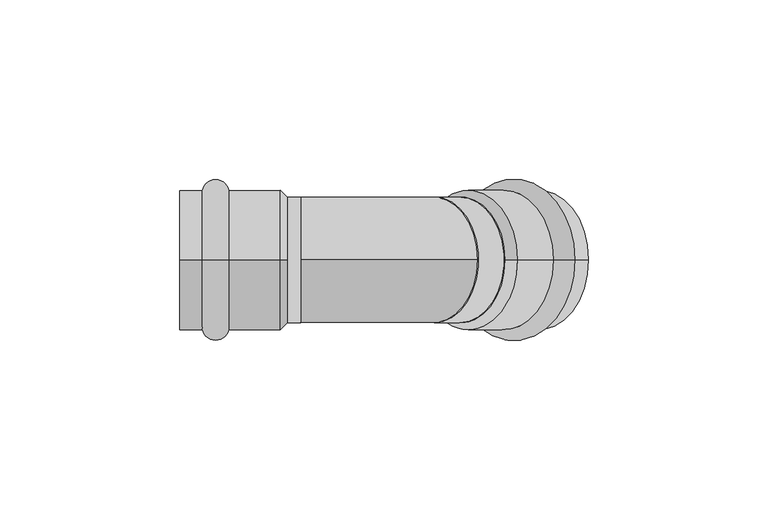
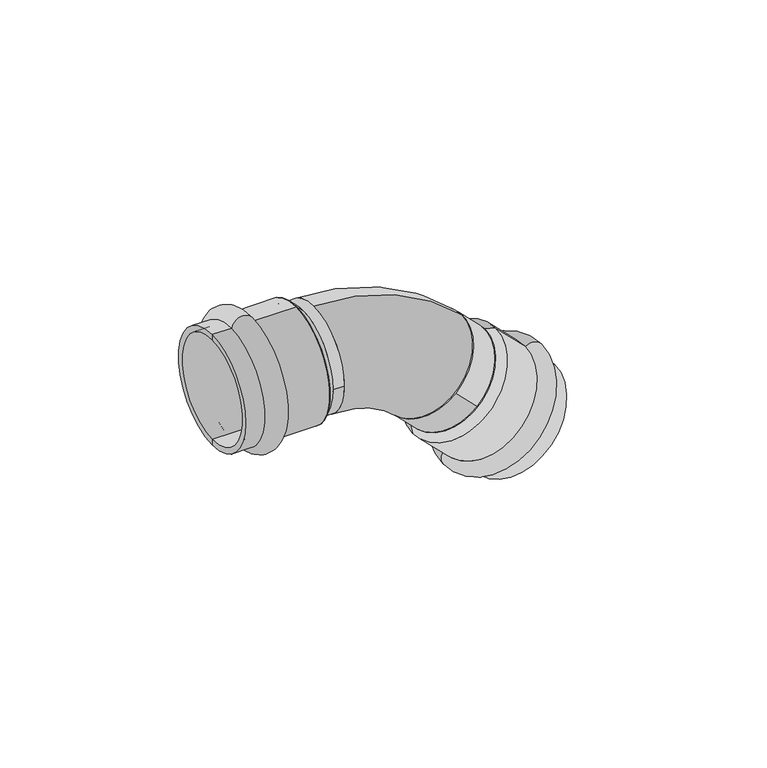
"""IFC4 building model written with IfcOpenShell, lengths in millimetres: pipe fitting geometry, VALTEC_VTi.959.I_Угольник 45° (раструб–раструб) нержавеющая сталь : Тип 1."""

import ifcopenshell
import ifcopenshell.guid

model = None  # the IFC model being written
_history = None  # IfcOwnerHistory: only IFC2X3 demands one
_inside = {}  # id of a spatial element -> (the spatial element, [elements in it])
_under = {}  # id of a project, library or spatial element -> (it, [spatial elements below it])
_declared = {}  # id of a project -> (the project, [libraries it declares])
_typed = {}  # id of a type object -> (the type object, [elements of that type])
_made_of = {}  # id of a material, layer set ... -> (it, [elements and type objects made of it])


def new_model(schema):
    """Start an empty IFC model of exactly this schema.

    Asked for "IFC4X3", IfcOpenShell would pick the latest addendum, in which some entities
    have other attributes; the version numbers below select the first issue.
    IFC2X3 requires an IfcOwnerHistory on every rooted entity: one is made here for all.
    """
    global model, _history
    if schema == "IFC4X3":
        model = ifcopenshell.file(schema_version=(4, 3, 0, 0))
    else:
        model = ifcopenshell.file(schema=schema)
    _inside.clear()
    _under.clear()
    _declared.clear()
    _typed.clear()
    _made_of.clear()
    _history = None
    if model.schema == "IFC2X3":
        org = make("IfcOrganization", Name="unknown")
        user = make(
            "IfcPersonAndOrganization",
            ThePerson=make("IfcPerson", FamilyName="unknown"),
            TheOrganization=org,
        )
        app = make(
            "IfcApplication",
            ApplicationDeveloper=org,
            Version="unknown",
            ApplicationFullName="unknown",
            ApplicationIdentifier="unknown",
        )
        _history = make(
            "IfcOwnerHistory",
            OwningUser=user,
            OwningApplication=app,
            ChangeAction="ADDED",
            CreationDate=0,
        )
    return model


def make(cls, **values):
    """One entity of the class cls with the attributes given. An attribute that is None is left unset."""
    return model.create_entity(
        cls, **{name: value for name, value in values.items() if value is not None}
    )


def rooted(cls, **values):
    """An entity with a GlobalId (a new one), such as an element, a storey or a relation."""
    return make(cls, GlobalId=ifcopenshell.guid.new(), OwnerHistory=_history, **values)


def si_unit(unit_type, name, prefix=None):
    """IfcSIUnit, for example si_unit("LENGTHUNIT", "METRE", prefix="MILLI")."""
    return make("IfcSIUnit", UnitType=unit_type, Prefix=prefix, Name=name)


def assignment(units):
    """IfcUnitAssignment: the units of a project."""
    return None if units is None else make("IfcUnitAssignment", Units=units)


def point(xyz):
    """IfcCartesianPoint."""
    return None if xyz is None else make("IfcCartesianPoint", Coordinates=xyz)


def direction(xyz):
    """IfcDirection."""
    return None if xyz is None else make("IfcDirection", DirectionRatios=xyz)


def frame(location, z_axis=None, x_axis=None):
    """IfcAxis2Placement3D, a coordinate frame: its origin and axes. An axis left out is left unset."""
    return make(
        "IfcAxis2Placement3D",
        Location=point(location),
        Axis=direction(z_axis),
        RefDirection=direction(x_axis),
    )


def frame_2d(location, x_axis=None):
    """IfcAxis2Placement2D, a coordinate frame in the plane: its origin and x axis."""
    return make(
        "IfcAxis2Placement2D", Location=point(location), RefDirection=direction(x_axis)
    )


def origin():
    """The frame at (0, 0, 0) with its axes left unset."""
    return frame((0.0, 0.0, 0.0))


def origin_2d():
    """The frame at (0, 0) in the plane with its x axis left unset."""
    return frame_2d((0.0, 0.0))


def place(relative_to, where):
    """IfcLocalPlacement: puts the frame where relative to a parent placement (None: the world)."""
    return make(
        "IfcLocalPlacement", PlacementRelTo=relative_to, RelativePlacement=where
    )


def context(
    kind, dimensions, precision=None, world=None, true_north=None, identifier=None
):
    """IfcGeometricRepresentationContext, for example the 3D "Model" context."""
    return make(
        "IfcGeometricRepresentationContext",
        ContextIdentifier=identifier,
        ContextType=kind,
        CoordinateSpaceDimension=dimensions,
        Precision=precision,
        WorldCoordinateSystem=world,
        TrueNorth=true_north,
    )


def project(units=None, contexts=None):
    """IfcProject with its units and contexts."""
    return rooted(
        "IfcProject",
        Name="project",
        RepresentationContexts=contexts,
        UnitsInContext=assignment(units),
    )


def spatial(cls, under=None, at=None, **own):
    """A site, building, storey or space (cls), placed at a placement, below another one or the project."""
    s = rooted(cls, ObjectPlacement=at, **own)
    if under is not None:
        _under.setdefault(under.id(), (under, []))[1].append(s)
    return s


def polyline(points):
    """IfcPolyline through the points."""
    return make("IfcPolyline", Points=[point(p) for p in points])


def circle_curve(where, radius):
    """IfcCircle in the frame where."""
    return make("IfcCircle", Position=where, Radius=radius)


def ellipse_curve(where, semi_axis1, semi_axis2):
    """IfcEllipse in the frame where."""
    return make(
        "IfcEllipse", Position=where, SemiAxis1=semi_axis1, SemiAxis2=semi_axis2
    )


def trimmed(basis, trim1, trim2, sense, master):
    """IfcTrimmedCurve: the piece of a basis curve between two trims."""
    return make(
        "IfcTrimmedCurve",
        BasisCurve=basis,
        Trim1=trim1,
        Trim2=trim2,
        SenseAgreement=sense,
        MasterRepresentation=master,
    )


def segment(curve, same_sense, transition):
    """IfcCompositeCurveSegment."""
    return make(
        "IfcCompositeCurveSegment",
        Transition=transition,
        SameSense=same_sense,
        ParentCurve=curve,
    )


def composite_curve(segments, self_intersect=None):
    """IfcCompositeCurve: segments joined end to end."""
    return make("IfcCompositeCurve", Segments=segments, SelfIntersect=self_intersect)


def outline(outer, holes=None, kind="AREA"):
    """IfcArbitraryClosedProfileDef: a profile drawn as a closed curve; with holes, ...WithVoids."""
    if holes is None:
        return make("IfcArbitraryClosedProfileDef", ProfileType=kind, OuterCurve=outer)
    return make(
        "IfcArbitraryProfileDefWithVoids",
        ProfileType=kind,
        OuterCurve=outer,
        InnerCurves=holes,
    )


def extrude(swept, where, along, depth):
    """IfcExtrudedAreaSolid: the profile swept, set in the frame where, extruded along a direction by depth."""
    return make(
        "IfcExtrudedAreaSolid",
        SweptArea=swept,
        Position=where,
        ExtrudedDirection=direction(along),
        Depth=depth,
    )


def shape(context_of_items, identifier, shape_type, items):
    """IfcShapeRepresentation: the items that make up one representation, for example the "Body"."""
    return make(
        "IfcShapeRepresentation",
        ContextOfItems=context_of_items,
        RepresentationIdentifier=identifier,
        RepresentationType=shape_type,
        Items=items,
    )


def source(mapping_origin, context_of_items, identifier, shape_type, items):
    """IfcRepresentationMap: a shape defined once, which mapped items show again and again."""
    return make(
        "IfcRepresentationMap",
        MappingOrigin=mapping_origin,
        MappedRepresentation=shape(context_of_items, identifier, shape_type, items),
    )


def transform(
    local_origin,
    x_axis=None,
    y_axis=None,
    z_axis=None,
    scale=None,
    scale2=None,
    scale3=None,
    uniform=True,
):
    """IfcCartesianTransformationOperator3D, or its non-uniform kind. x_axis, y_axis, z_axis: its Axis1, 2, 3."""
    if uniform:
        return make(
            "IfcCartesianTransformationOperator3D",
            Axis1=direction(x_axis),
            Axis2=direction(y_axis),
            LocalOrigin=point(local_origin),
            Scale=scale,
            Axis3=direction(z_axis),
        )
    return make(
        "IfcCartesianTransformationOperator3DnonUniform",
        Axis1=direction(x_axis),
        Axis2=direction(y_axis),
        LocalOrigin=point(local_origin),
        Scale=scale,
        Axis3=direction(z_axis),
        Scale2=scale2,
        Scale3=scale3,
    )


def mapped(mapping_source, mapping_target):
    """IfcMappedItem: shows the shape of a source again, moved by a transform."""
    return make(
        "IfcMappedItem", MappingSource=mapping_source, MappingTarget=mapping_target
    )


def made_of(thing, what):
    """Note that an element or type object is made of a material, layer set ...; save() writes the relation."""
    if what is not None:
        _made_of.setdefault(what.id(), (what, []))[1].append(thing)
    return thing


def element(
    cls,
    number,
    at=None,
    inside=None,
    cuts=None,
    type_object=None,
    material=None,
    context=None,
    identifier="Body",
    shape_type=None,
    held_by="IfcProductDefinitionShape",
    body=None,
    shapes=None,
    **own,
):
    """One element of the class cls, such as IfcWall. Its Tag is "e" and its number.

    at: its placement. inside: the storey or other place that contains it. cuts: it is an
    opening in that element (IfcRelVoidsElement). A single representation is given by context,
    identifier, shape_type and body (its items); several are given by shapes. held_by: the class
    of the entity that holds the representations. save() writes the other relations.
    """
    e = rooted(cls, Tag="e%d" % number, ObjectPlacement=at, **own)
    if body is not None:
        shapes = [shape(context, identifier, shape_type, body)]
    if shapes is not None:
        e.Representation = make(held_by, Representations=shapes)
    if inside is not None:
        _inside.setdefault(inside.id(), (inside, []))[1].append(e)
    if cuts is not None:
        rooted(
            "IfcRelVoidsElement", RelatingBuildingElement=cuts, RelatedOpeningElement=e
        )
    if type_object is not None:
        _typed.setdefault(type_object.id(), (type_object, []))[1].append(e)
    return made_of(e, material)


def aggregate(whole, parts):
    """IfcRelAggregates: a whole, such as a stair, and the parts it consists of."""
    return rooted("IfcRelAggregates", RelatingObject=whole, RelatedObjects=parts)


def save(model, path):
    """Write the relations noted so far, then the file.

    IfcRelAggregates (storeys below a building ...), IfcRelContainedInSpatialStructure (elements
    in a storey), IfcRelDefinesByType, IfcRelAssociatesMaterial and IfcRelDeclares: one each for
    every whole, place, type object, material and project.
    """
    for whole, parts in _under.values():
        aggregate(whole, parts)
    for where, things in _inside.values():
        rooted(
            "IfcRelContainedInSpatialStructure",
            RelatedElements=things,
            RelatingStructure=where,
        )
    for kind, things in _typed.values():
        rooted("IfcRelDefinesByType", RelatedObjects=things, RelatingType=kind)
    for what, things in _made_of.values():
        rooted("IfcRelAssociatesMaterial", RelatedObjects=things, RelatingMaterial=what)
    for by, libraries in _declared.values():
        rooted("IfcRelDeclares", RelatingContext=by, RelatedDefinitions=libraries)
    model.write(path)


def plane_surface(at):
    """IfcPlane: the flat surface through the origin of the frame at, square to its z axis."""
    return make("IfcPlane", Position=at)


def cylinder_surface(at, radius):
    """IfcCylindricalSurface: all points at the distance radius from the z axis of the frame at."""
    return make("IfcCylindricalSurface", Position=at, Radius=radius)


def revolved_surface(curve, axis_point, axis_direction):
    """IfcSurfaceOfRevolution: the curve turned about the line through axis_point along axis_direction."""
    return make(
        "IfcSurfaceOfRevolution",
        SweptCurve=make("IfcArbitraryOpenProfileDef", ProfileType="CURVE", Curve=curve),
        AxisPosition=make("IfcAxis1Placement", Location=point(axis_point), Axis=direction(axis_direction)),
    )


def advanced_brep(points, edges, surfaces, faces):
    """IfcAdvancedBrep: a solid bounded by faces that lie on surfaces and meet in shared edges.

    An edge is (start, end): straight between two places in points (the first is 0);
    or (start, end, curve); or (start, end, curve, False) where it runs against its curve.
    A face is (place in surfaces, loops), or (place, loops, False) where it looks against
    its surface's normal. A loop lists edges by number (the first is 1), with a minus sign
    where the edge is run from its end to its start. The first loop is the outer one.
    """
    corners = [point(p) for p in points]
    vertices = [make("IfcVertexPoint", VertexGeometry=c) for c in corners]
    made = []
    for start, end, *more in edges:
        made.append(
            make(
                "IfcEdgeCurve",
                EdgeStart=vertices[start],
                EdgeEnd=vertices[end],
                EdgeGeometry=more[0] if more else make("IfcPolyline", Points=[corners[start], corners[end]]),
                SameSense=more[1] if len(more) > 1 else True,
            )
        )
    hull = []
    for where, loops, *sense in faces:
        bounds = []
        for j, loop in enumerate(loops):
            ring = [make("IfcOrientedEdge", EdgeElement=made[abs(k) - 1], Orientation=k > 0) for k in loop]
            bounds.append(
                make(
                    "IfcFaceOuterBound" if j == 0 else "IfcFaceBound",
                    Bound=make("IfcEdgeLoop", EdgeList=ring),
                    Orientation=True,
                )
            )
        hull.append(make("IfcAdvancedFace", Bounds=bounds, FaceSurface=surfaces[where], SameSense=sense[0] if sense else True))
    return make("IfcAdvancedBrep", Outer=make("IfcClosedShell", CfsFaces=hull))


def pipe_fitting_901698c2(model_context):
    return source(origin(), model_context, "Body", "SolidModel", [
        advanced_brep(
        [(-5.75, 0.0, 19.4), (-5.75, 0.0, -19.4), (-3.75, 0.0, 17.5), (-3.75, 0.0, -17.5)],
        [
            (0, 1, circle_curve(frame((-5.75, 0.0, 0.0), z_axis=(-1.0, 0.0, 0.0), x_axis=(0.0, 0.0, 1.0)), 19.4)),
            (1, 0, circle_curve(frame((-5.75, 0.0, 0.0), z_axis=(-1.0, 0.0, 0.0), x_axis=(0.0, 0.0, -1.0)), 19.4)),
            (2, 3, circle_curve(frame((-3.75, 0.0, 0.0), z_axis=(1.0, 0.0, 0.0), x_axis=(0.0, 0.0, -1.0)), 17.5)),
            (3, 2, circle_curve(frame((-3.75, 0.0, 0.0), z_axis=(1.0, 0.0, 0.0), x_axis=(0.0, 0.0, 1.0)), 17.5)),
            (3, 1),
            (0, 2),
        ],
        [
            plane_surface(frame((-5.75, 0.0, 0.0), z_axis=(-1.0, 0.0, 0.0), x_axis=(0.0, 1.0, 0.0))),
            plane_surface(frame((-3.75, 0.0, 0.0), z_axis=(1.0, 0.0, 0.0), x_axis=(0.0, 1.0, 0.0))),
            revolved_surface(polyline([(-3.75, 0.0, -17.499999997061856), (-5.75, 0.0, -19.4)]), (14.6710526, 0.0, 0.0), (-1.0, 0.0, 0.0)),
            revolved_surface(polyline([(-3.75, 0.0, 17.499999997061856), (-5.75, 0.0, 19.4)]), (14.6710526, 0.0, 0.0), (-1.0, 0.0, 0.0)),
        ],
        [
            (0, [[1, 2]]),
            (1, [[3, 4]]),
            (2, [[-4, 5, -1, 6]]),
            (3, [[-3, -6, -2, -5]]),
        ],
    ),
        advanced_brep(
        [(32.9076515, 0.0, -38.5971825), (60.3433946, 0.0, -11.1614394), (32.129834, 0.0, -35.1323593), (56.8785713, 0.0, -10.383622)],
        [
            (0, 1, circle_curve(frame((46.625523, 0.0, -24.879311), z_axis=(0.7071067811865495, 0.0, -0.7071067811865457), x_axis=(-0.7071067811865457, 0.0, -0.7071067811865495)), 19.4)),
            (1, 0, circle_curve(frame((46.625523, 0.0, -24.879311), z_axis=(0.7071067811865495, 0.0, -0.7071067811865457), x_axis=(0.7071067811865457, 0.0, 0.7071067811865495)), 19.4)),
            (2, 3, circle_curve(frame((44.5042027, 0.0, -22.7579906), z_axis=(-0.7071067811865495, 0.0, 0.7071067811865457), x_axis=(0.7071067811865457, 0.0, 0.7071067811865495)), 17.5)),
            (3, 2, circle_curve(frame((44.5042027, 0.0, -22.7579906), z_axis=(-0.7071067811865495, 0.0, 0.7071067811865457), x_axis=(-0.7071067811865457, 0.0, -0.7071067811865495)), 17.5)),
            (3, 1),
            (0, 2),
        ],
        [
            plane_surface(frame((46.625523, 0.0, -24.879311), z_axis=(0.7071067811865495, 0.0, -0.7071067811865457), x_axis=(0.0, 1.0, 0.0))),
            plane_surface(frame((44.5042027, 0.0, -22.7579906), z_axis=(-0.7071067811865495, 0.0, 0.7071067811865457), x_axis=(0.0, 1.0, 0.0))),
            revolved_surface(polyline([(56.87857135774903, 0.0, -10.383621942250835), (60.3433946, 0.0, -11.1614394)]), (24.9657258, 0.0, -3.2195138), (0.7071067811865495, 0.0, -0.7071067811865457)),
            revolved_surface(polyline([(32.12983403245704, 0.0, -35.13235926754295), (32.90765150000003, 0.0, -38.59718250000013)]), (24.9657258, 0.0, -3.2195138), (0.7071067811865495, 0.0, -0.7071067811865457)),
        ],
        [
            (0, [[1, 2]]),
            (1, [[3, 4]]),
            (2, [[-4, 5, -1, 6]]),
            (3, [[-3, -6, -2, -5]]),
        ],
    ),
        advanced_brep(
        [(-27.3932371, 0.0, -19.4), (-27.3932371, 0.0, 19.4), (-20.0067629, 0.0, 19.4), (-20.0067629, 0.0, -19.4), (-33.75, 0.0, -19.4), (-33.75, 0.0, 19.4), (-33.75, 0.0, -17.5), (-33.75, 0.0, 17.5), (-5.75, 0.0, -17.5), (-5.75, 0.0, 17.5), (-5.75, 0.0, -19.4), (-5.75, 0.0, 19.4)],
        [
            (0, 1, circle_curve(frame((-27.3932371, 0.0, 0.0), z_axis=(1.0, 0.0, 0.0), x_axis=(0.0, 0.0, 1.0)), 19.4)),
            (1, 2, circle_curve(frame((-23.7, 0.0, 18.75), z_axis=(0.0, 1.0, 0.0), x_axis=(1.0, 0.0, 0.0)), 3.75)),
            (2, 3, circle_curve(frame((-20.0067629, 0.0, 0.0), z_axis=(-1.0, 0.0, 0.0), x_axis=(0.0, 0.0, 1.0)), 19.4)),
            (3, 0, circle_curve(frame((-23.7, 0.0, -18.75), z_axis=(0.0, 1.0, 0.0), x_axis=(1.0, 0.0, 0.0)), 3.75)),
            (1, 0, circle_curve(frame((-27.3932371, 0.0, 0.0), z_axis=(1.0, 0.0, 0.0), x_axis=(0.0, 0.0, 1.0)), 19.4)),
            (3, 2, circle_curve(frame((-20.0067629, 0.0, 0.0), z_axis=(-1.0, 0.0, 0.0), x_axis=(0.0, 0.0, 1.0)), 19.4)),
            (4, 5, circle_curve(frame((-33.75, 0.0, 0.0), z_axis=(1.0, 0.0, 0.0), x_axis=(0.0, 0.0, 1.0)), 19.4)),
            (5, 1),
            (0, 4),
            (5, 4, circle_curve(frame((-33.75, 0.0, 0.0), z_axis=(1.0, 0.0, 0.0), x_axis=(0.0, 0.0, 1.0)), 19.4)),
            (6, 7, circle_curve(frame((-33.75, 0.0, 0.0), z_axis=(1.0, 0.0, 0.0), x_axis=(0.0, 0.0, 1.0)), 17.5)),
            (7, 5),
            (4, 6),
            (7, 6, circle_curve(frame((-33.75, 0.0, 0.0), z_axis=(1.0, 0.0, 0.0), x_axis=(0.0, 0.0, 1.0)), 17.5)),
            (8, 9, circle_curve(frame((-5.75, 0.0, 0.0), z_axis=(1.0, 0.0, 0.0), x_axis=(0.0, 0.0, 1.0)), 17.5)),
            (9, 7),
            (6, 8),
            (9, 8, circle_curve(frame((-5.75, 0.0, 0.0), z_axis=(1.0, 0.0, 0.0), x_axis=(0.0, 0.0, 1.0)), 17.5)),
            (10, 11, circle_curve(frame((-5.75, 0.0, 0.0), z_axis=(1.0, 0.0, 0.0), x_axis=(0.0, 0.0, 1.0)), 19.4)),
            (11, 9),
            (8, 10),
            (11, 10, circle_curve(frame((-5.75, 0.0, 0.0), z_axis=(1.0, 0.0, 0.0), x_axis=(0.0, 0.0, 1.0)), 19.4)),
            (2, 11),
            (10, 3),
        ],
        [
            revolved_surface(trimmed(ellipse_curve(frame((-23.7, 0.0, 18.75), z_axis=(0.0, -1.0, 0.0), x_axis=(1.0, 0.0, 0.0)), 3.75, 3.75), [point((-20.0067629, 0.0, 19.4))], [point((-27.3932371, 0.0, 19.4))], True, "CARTESIAN"), (-37.2864426, 0.0, 0.0), (-1.0, 0.0, 0.0)),
            cylinder_surface(frame((-37.2864426, 0.0, 0.0), z_axis=(-1.0, 0.0, 0.0), x_axis=(0.0, 0.0, 1.0)), 19.4),
            plane_surface(frame((-33.75, 0.0, 0.0), z_axis=(-1.0, 0.0, 0.0), x_axis=(0.0, 0.0, 1.0))),
            revolved_surface(polyline([(-33.75, 0.0, 17.5), (-5.75, 0.0, 17.5)]), (-37.2864426, 0.0, 0.0), (-1.0, 0.0, 0.0)),
            plane_surface(frame((-5.75, 0.0, 0.0), z_axis=(1.0, 0.0, 0.0), x_axis=(0.0, 0.0, 1.0))),
        ],
        [
            (0, [[1, 2, 3, 4]]),
            (0, [[5, -4, 6, -2]]),
            (1, [[7, 8, -1, 9]]),
            (1, [[10, -9, -5, -8]]),
            (2, [[11, 12, -7, 13]]),
            (2, [[14, -13, -10, -12]]),
            (3, [[15, 16, -11, 17]]),
            (3, [[18, -17, -14, -16]]),
            (4, [[19, 20, -15, 21]]),
            (4, [[22, -21, -18, -20]]),
            (1, [[-3, 23, -19, 24]]),
            (1, [[-6, -24, -22, -23]]),
        ],
    ),
        advanced_brep(
        [(75.6474743, 0.0, -26.4655191), (48.2117311, 0.0, -53.9012622), (42.9887052, 0.0, -48.6782363), (70.4244483, 0.0, -21.2424932), (80.1423844, 0.0, -30.9604293), (52.7066413, 0.0, -58.3961724), (78.7988816, 0.0, -32.3039322), (54.0501442, 0.0, -57.0526695), (58.9998917, 0.0, -12.5049423), (34.2511543, 0.0, -37.2536797), (60.3433946, 0.0, -11.1614394), (32.9076515, 0.0, -38.5971825)],
        [
            (0, 1, circle_curve(frame((61.9296027, 0.0, -40.1833907), z_axis=(-0.7071067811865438, 0.0, 0.7071067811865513), x_axis=(-0.7071067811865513, 0.0, -0.7071067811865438)), 19.4)),
            (1, 2, circle_curve(frame((46.0598376, 0.0, -50.8301299), z_axis=(0.0, 1.0, 0.0), x_axis=(-0.7071067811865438, 0.0, 0.7071067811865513)), 3.75)),
            (2, 3, circle_curve(frame((56.7065768, 0.0, -34.9603647), z_axis=(0.7071067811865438, 0.0, -0.7071067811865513), x_axis=(-0.7071067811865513, 0.0, -0.7071067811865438)), 19.4)),
            (3, 0, circle_curve(frame((72.5763419, 0.0, -24.3136256), z_axis=(0.0, 1.0, 0.0), x_axis=(-0.7071067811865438, 0.0, 0.7071067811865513)), 3.75)),
            (1, 0, circle_curve(frame((61.9296027, 0.0, -40.1833907), z_axis=(-0.7071067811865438, 0.0, 0.7071067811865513), x_axis=(-0.7071067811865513, 0.0, -0.7071067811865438)), 19.4)),
            (3, 2, circle_curve(frame((56.7065768, 0.0, -34.9603647), z_axis=(0.7071067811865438, 0.0, -0.7071067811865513), x_axis=(-0.7071067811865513, 0.0, -0.7071067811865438)), 19.4)),
            (4, 5, circle_curve(frame((66.4245129, 0.0, -44.6783009), z_axis=(-0.7071067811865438, 0.0, 0.7071067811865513), x_axis=(-0.7071067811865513, 0.0, -0.7071067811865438)), 19.4)),
            (5, 1),
            (0, 4),
            (5, 4, circle_curve(frame((66.4245129, 0.0, -44.6783009), z_axis=(-0.7071067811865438, 0.0, 0.7071067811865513), x_axis=(-0.7071067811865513, 0.0, -0.7071067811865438)), 19.4)),
            (6, 7, circle_curve(frame((66.4245129, 0.0, -44.6783009), z_axis=(-0.7071067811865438, 0.0, 0.7071067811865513), x_axis=(-0.7071067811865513, 0.0, -0.7071067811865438)), 17.5)),
            (7, 5),
            (4, 6),
            (7, 6, circle_curve(frame((66.4245129, 0.0, -44.6783009), z_axis=(-0.7071067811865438, 0.0, 0.7071067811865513), x_axis=(-0.7071067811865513, 0.0, -0.7071067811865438)), 17.5)),
            (8, 9, circle_curve(frame((46.625523, 0.0, -24.879311), z_axis=(-0.7071067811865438, 0.0, 0.7071067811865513), x_axis=(-0.7071067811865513, 0.0, -0.7071067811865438)), 17.5)),
            (9, 7),
            (6, 8),
            (9, 8, circle_curve(frame((46.625523, 0.0, -24.879311), z_axis=(-0.7071067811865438, 0.0, 0.7071067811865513), x_axis=(-0.7071067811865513, 0.0, -0.7071067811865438)), 17.5)),
            (10, 11, circle_curve(frame((46.625523, 0.0, -24.879311), z_axis=(-0.7071067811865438, 0.0, 0.7071067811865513), x_axis=(-0.7071067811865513, 0.0, -0.7071067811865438)), 19.4)),
            (11, 9),
            (8, 10),
            (11, 10, circle_curve(frame((46.625523, 0.0, -24.879311), z_axis=(-0.7071067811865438, 0.0, 0.7071067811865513), x_axis=(-0.7071067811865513, 0.0, -0.7071067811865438)), 19.4)),
            (2, 11),
            (10, 3),
        ],
        [
            revolved_surface(trimmed(ellipse_curve(frame((46.0598376, 0.0, -50.8301299), z_axis=(0.0, -1.0, 0.0), x_axis=(-0.7071067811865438, 0.0, 0.7071067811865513)), 3.75, 3.75), [point((42.9887052, 0.0, -48.6782363))], [point((48.2117311, 0.0, -53.9012622))], True, "CARTESIAN"), (68.9251554, 0.0, -47.1789434), (0.7071067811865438, 0.0, -0.7071067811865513)),
            cylinder_surface(frame((68.9251554, 0.0, -47.1789434), z_axis=(0.7071067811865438, 0.0, -0.7071067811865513), x_axis=(-0.7071067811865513, 0.0, -0.7071067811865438)), 19.4),
            plane_surface(frame((66.4245129, 0.0, -44.6783009), z_axis=(0.7071067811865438, 0.0, -0.7071067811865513), x_axis=(-0.7071067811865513, 0.0, -0.7071067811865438))),
            revolved_surface(polyline([(54.050144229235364, 0.0, -57.05266957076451), (34.251154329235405, 0.0, -37.253679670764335)]), (68.9251554, 0.0, -47.1789434), (0.7071067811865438, 0.0, -0.7071067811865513)),
            plane_surface(frame((46.625523, 0.0, -24.879311), z_axis=(-0.7071067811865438, 0.0, 0.7071067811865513), x_axis=(-0.7071067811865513, 0.0, -0.7071067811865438))),
        ],
        [
            (0, [[1, 2, 3, 4]]),
            (0, [[5, -4, 6, -2]]),
            (1, [[7, 8, -1, 9]]),
            (1, [[10, -9, -5, -8]]),
            (2, [[11, 12, -7, 13]]),
            (2, [[14, -13, -10, -12]]),
            (3, [[15, 16, -11, 17]]),
            (3, [[18, -17, -14, -16]]),
            (4, [[19, 20, -15, 21]]),
            (4, [[22, -21, -18, -20]]),
            (1, [[-3, 23, -19, 24]]),
            (1, [[-6, -24, -22, -23]]),
        ],
    ),
        extrude(outline(composite_curve([segment(trimmed(circle_curve(origin_2d(), 17.5), [point((-17.5, 0.0))], [point((17.5, 0.0))], False, "CARTESIAN"), True, "CONTINUOUS"), segment(trimmed(circle_curve(origin_2d(), 17.5), [point((17.5, 0.0))], [point((-17.5, 0.0))], False, "CARTESIAN"), True, "CONTINUOUS")], self_intersect=False)), frame((-3.75, 0.0, 0.0), z_axis=(1.0, 0.0, 0.0), x_axis=(0.0, 1.0, 0.0)), (0.0, 0.0, 1.0), 3.75),
        extrude(outline(composite_curve([segment(trimmed(circle_curve(frame_2d((0.0, -17.5)), 17.5), [point((0.0, -35.0))], [point((0.0, 0.0))], False, "CARTESIAN"), True, "CONTINUOUS"), segment(trimmed(circle_curve(frame_2d((0.0, -17.5)), 17.5), [point((0.0, 0.0))], [point((0.0, -35.0))], False, "CARTESIAN"), True, "CONTINUOUS")], self_intersect=False)), frame((44.5042027, -17.5, -22.7579906), z_axis=(-0.7071067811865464, 0.0, 0.7071067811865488), x_axis=(-0.7071067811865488, 0.0, -0.7071067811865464)), (0.0, 0.0, 1.0), 10.438447),
        advanced_brep(
        [(0.0, 0.0, -17.5), (0.0, 0.0, 17.5), (24.7487373, 0.0, -27.7512627), (49.4974747, 0.0, -3.0025253)],
        [
            (0, 1, circle_curve(frame((0.0, 0.0, 0.0), z_axis=(-1.0, 0.0, 0.0), x_axis=(0.0, 0.0, 1.0)), 17.5)),
            (1, 0, circle_curve(frame((0.0, 0.0, 0.0), z_axis=(-1.0, 0.0, 0.0), x_axis=(0.0, 0.0, 1.0)), 17.5)),
            (2, 3, circle_curve(frame((37.123106, 0.0, -15.376894), z_axis=(0.7071067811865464, 0.0, -0.7071067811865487), x_axis=(0.7071067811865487, 0.0, 0.7071067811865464)), 17.5)),
            (3, 2, circle_curve(frame((37.123106, 0.0, -15.376894), z_axis=(0.7071067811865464, 0.0, -0.7071067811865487), x_axis=(0.7071067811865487, 0.0, 0.7071067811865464)), 17.5)),
            (3, 1, circle_curve(frame((0.0, 0.0, -52.5), z_axis=(0.0, -1.0, 0.0), x_axis=(0.0, 0.0, 1.0)), 70.0)),
            (0, 2, circle_curve(frame((0.0, 0.0, -52.5), z_axis=(0.0, 1.0, 0.0), x_axis=(0.0, 0.0, 1.0)), 35.0)),
        ],
        [
            plane_surface(frame((0.0, 0.0, 0.0), z_axis=(-1.0, 0.0, 0.0), x_axis=(0.0, -1.0, 0.0))),
            plane_surface(frame((37.123106, 0.0, -15.376894), z_axis=(0.7071067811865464, 0.0, -0.7071067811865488), x_axis=(0.0, -1.0, 0.0))),
            revolved_surface(trimmed(ellipse_curve(frame((0.0, 0.0, 0.0), z_axis=(-1.0, 0.0, 0.0), x_axis=(0.0, 0.0, 1.0)), 17.5, 17.5), [point((0.0, 0.0, -17.5))], [point((0.0, 0.0, 17.5))], True, "CARTESIAN"), (0.0, 0.0, -52.5), (0.0, 1.0, 0.0)),
            revolved_surface(trimmed(ellipse_curve(frame((0.0, 0.0, 0.0), z_axis=(-1.0, 0.0, 0.0), x_axis=(0.0, 0.0, 1.0)), 17.5, 17.5), [point((0.0, 0.0, 17.5))], [point((0.0, 0.0, -17.5))], True, "CARTESIAN"), (0.0, 0.0, -52.5), (0.0, 1.0, 0.0)),
        ],
        [
            (0, [[1, 2]]),
            (1, [[3, 4]]),
            (2, [[5, -1, 6, -4]]),
            (3, [[-6, -2, -5, -3]]),
        ],
    ),
    ])


if __name__ == "__main__":
    model = new_model("IFC4")
    model_context = context("Model", 3, world=origin())
    ifc_project = project(units=[si_unit("LENGTHUNIT", "METRE", prefix="MILLI")], contexts=[model_context])
    site = spatial("IfcSite", under=ifc_project)
    building = spatial("IfcBuilding", under=site)
    placement = place(None, origin())
    pipe_fitting_shape = pipe_fitting_901698c2(model_context)
    element("IfcPipeFitting", 1, ObjectType="VALTEC_VTi.959.I_Угольник 45° (раструб–раструб) нержавеющая сталь : Тип 1", at=placement, inside=building, context=model_context, shape_type="MappedRepresentation", body=[
        mapped(pipe_fitting_shape, transform((0.0, 0.0, 0.0), x_axis=(1.0, 0.0, 0.0), y_axis=(0.0, 1.0, 0.0), z_axis=(0.0, 0.0, 1.0))),
    ])
    save(model, "model.ifc")
